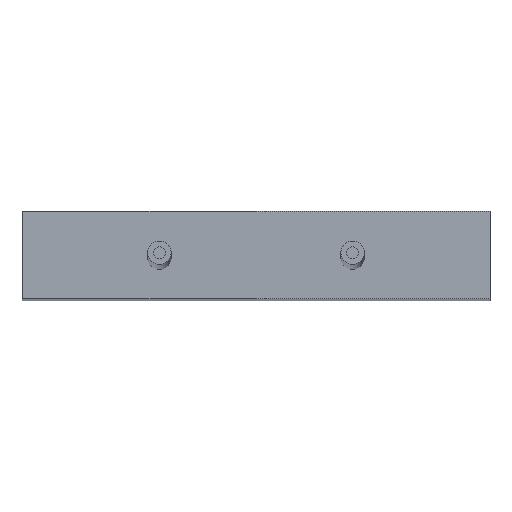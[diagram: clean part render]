
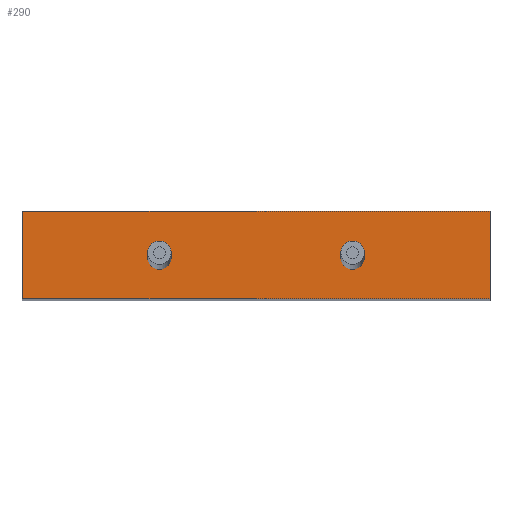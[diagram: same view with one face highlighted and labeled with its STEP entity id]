
A CAD part, top view. The second image highlights one B-rep face of the part: STEP entity #290.
In plain terms, the highlighted planar face has unit normal (0, 0, 1).
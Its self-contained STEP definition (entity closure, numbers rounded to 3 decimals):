
#13=LINE($,#440,#25);
#16=LINE($,#454,#28);
#19=LINE($,#460,#31);
#22=LINE($,#473,#34);
#25=VECTOR($,#365,15.);
#28=VECTOR($,#378,80.);
#31=VECTOR($,#383,15.);
#34=VECTOR($,#396,80.);
#45=PLANE($,#327);
#68=FACE_BOUND($,#119,.T.);
#69=FACE_BOUND($,#120,.T.);
#70=FACE_BOUND($,#121,.T.);
#119=EDGE_LOOP($,(#240));
#120=EDGE_LOOP($,(#241));
#121=EDGE_LOOP($,(#242,#243,#244,#245));
#125=CIRCLE($,#300,2.);
#129=CIRCLE($,#308,2.);
#141=VERTEX_POINT($,#420);
#145=VERTEX_POINT($,#432);
#146=VERTEX_POINT($,#436);
#148=VERTEX_POINT($,#439);
#154=VERTEX_POINT($,#453);
#156=VERTEX_POINT($,#459);
#165=EDGE_CURVE($,#141,#141,#125,.T.);
#169=EDGE_CURVE($,#145,#145,#129,.T.);
#171=EDGE_CURVE($,#148,#146,#13,.T.);
#178=EDGE_CURVE($,#154,#148,#16,.T.);
#181=EDGE_CURVE($,#156,#154,#19,.T.);
#188=EDGE_CURVE($,#146,#156,#22,.T.);
#240=ORIENTED_EDGE($,*,*,#165,.T.);
#241=ORIENTED_EDGE($,*,*,#169,.T.);
#242=ORIENTED_EDGE($,*,*,#188,.T.);
#243=ORIENTED_EDGE($,*,*,#181,.T.);
#244=ORIENTED_EDGE($,*,*,#178,.T.);
#245=ORIENTED_EDGE($,*,*,#171,.T.);
#290=ADVANCED_FACE($,(#68,#69,#70),#45,.T.);
#300=AXIS2_PLACEMENT_3D($,#421,#342,#343);
#308=AXIS2_PLACEMENT_3D($,#433,#358,#359);
#327=AXIS2_PLACEMENT_3D($,#480,#408,#409);
#342=DIRECTION('center_axis',(0.,0.,
-1.));
#343=DIRECTION('ref_axis',(-1.,0.,0.));
#358=DIRECTION('center_axis',(0.,0.,
-1.));
#359=DIRECTION('ref_axis',(-1.,0.,0.));
#365=DIRECTION($,(0.,1.,0.));
#378=DIRECTION($,(1.,0.,0.));
#383=DIRECTION($,(0.,-1.,0.));
#396=DIRECTION($,(-1.,0.,0.));
#408=DIRECTION('center_axis',(0.,0.,
1.));
#409=DIRECTION('ref_axis',(1.,0.,0.));
#420=CARTESIAN_POINT('',(53.302,0.284,124.656));
#421=CARTESIAN_POINT('Origin',(51.302,0.284,124.656));
#432=CARTESIAN_POINT('',(86.302,0.284,124.656));
#433=CARTESIAN_POINT('Origin',(84.302,0.284,124.656));
#436=CARTESIAN_POINT('',(107.802,8.284,124.656));
#439=CARTESIAN_POINT('',(107.802,-6.716,124.656));
#440=CARTESIAN_POINT($,(107.802,8.284,124.656));
#453=CARTESIAN_POINT('',(27.802,-6.716,124.656));
#454=CARTESIAN_POINT($,(107.802,-6.716,124.656));
#459=CARTESIAN_POINT('',(27.802,8.284,124.656));
#460=CARTESIAN_POINT($,(27.802,-6.716,124.656));
#473=CARTESIAN_POINT($,(27.802,8.284,124.656));
#480=CARTESIAN_POINT('Origin',(67.802,0.784,124.656));
